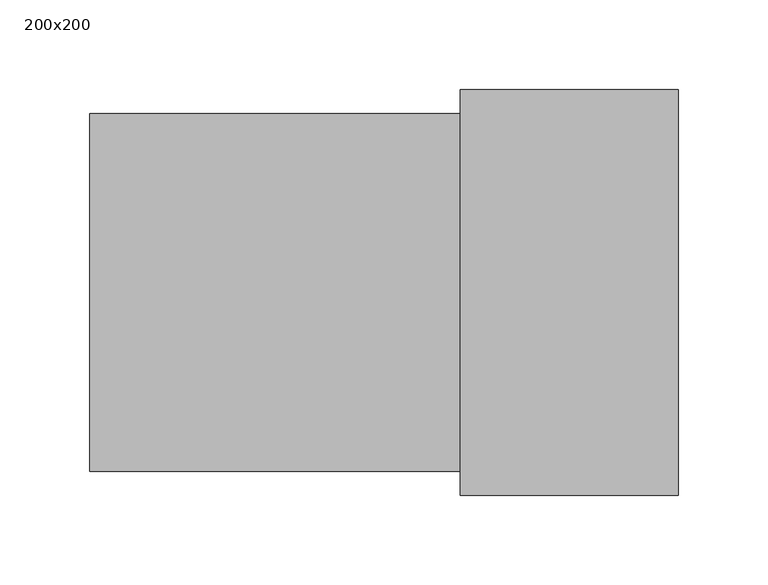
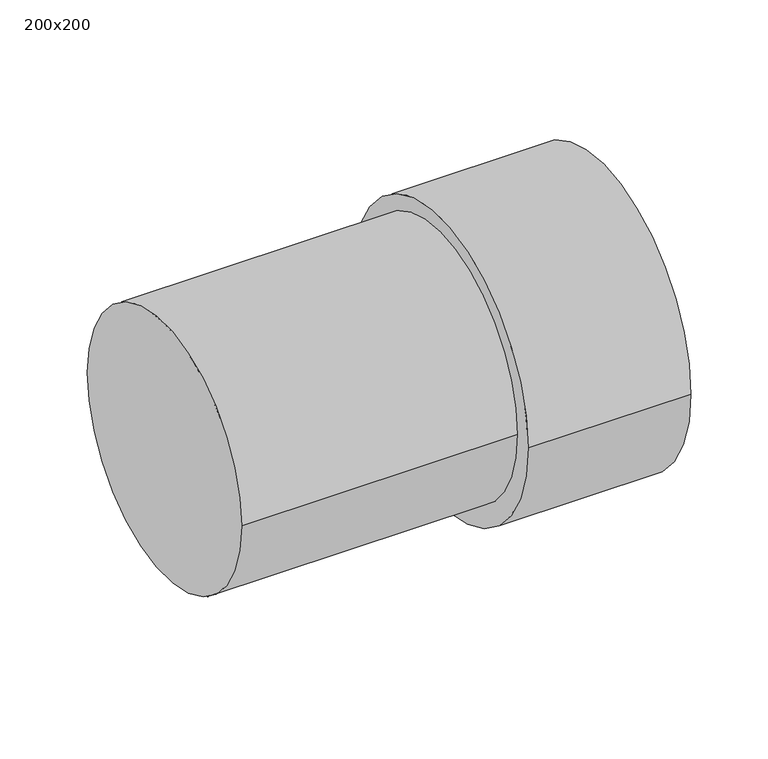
"""IFC4 building model written with IfcOpenShell, lengths in millimetres: pipe fitting geometry, Pipelife - Pragma OD - Adaptor kanalizacyjny : 200x200."""

from ifc_helpers import new_model, si_unit, point, frame, origin, origin_2d, place, context, project, spatial, polyline, circle_curve, trimmed, segment, composite_curve, outline, extrude, source, transform, mapped, element, save
from ifc_brep_helpers import plane_surface, cylinder_surface, revolved_surface, advanced_brep


def pipe_fitting_200x200_a64cda1f(model_context):
    return source(origin(), model_context, "Body", "SolidModel", [
        advanced_brep(
        [(2.0, -113.5, -2.5), (2.0, 113.5, -2.5), (124.0, -113.5, -2.5), (124.0, 113.5, -2.5), (124.0, -101.0, -2.5), (124.0, 101.0, -2.5), (3.0, -101.0, -2.5), (3.0, 101.0, -2.5)],
        [
            (0, 1, circle_curve(frame((2.0, 0.0, -2.5), z_axis=(-1.0, 0.0, 0.0), x_axis=(0.0, 1.0, 0.0)), 113.5)),
            (1, 0, circle_curve(frame((2.0, 0.0, -2.5), z_axis=(-1.0, 0.0, 0.0), x_axis=(0.0, 1.0, 0.0)), 113.5)),
            (2, 3, circle_curve(frame((124.0, 0.0, -2.5), z_axis=(1.0, 0.0, 0.0), x_axis=(0.0, 1.0, 0.0)), 113.5)),
            (3, 2, circle_curve(frame((124.0, 0.0, -2.5), z_axis=(1.0, 0.0, 0.0), x_axis=(0.0, 1.0, 0.0)), 113.5)),
            (4, 5, circle_curve(frame((124.0, 0.0, -2.5), z_axis=(-1.0, 0.0, 0.0), x_axis=(0.0, 1.0, 0.0)), 101.0)),
            (5, 4, circle_curve(frame((124.0, 0.0, -2.5), z_axis=(-1.0, 0.0, 0.0), x_axis=(0.0, 1.0, 0.0)), 101.0)),
            (0, 2),
            (3, 1),
            (6, 7, circle_curve(frame((3.0, 0.0, -2.5), z_axis=(1.0, 0.0, 0.0), x_axis=(0.0, 1.0, 0.0)), 101.0)),
            (7, 6, circle_curve(frame((3.0, 0.0, -2.5), z_axis=(1.0, 0.0, 0.0), x_axis=(0.0, 1.0, 0.0)), 101.0)),
            (7, 5),
            (4, 6),
        ],
        [
            plane_surface(frame((2.0, 0.0, -2.5), z_axis=(-1.0, 0.0, 0.0), x_axis=(0.0, 0.0, 1.0))),
            plane_surface(frame((124.0, 0.0, -2.5), z_axis=(1.0, 0.0, 0.0), x_axis=(0.0, 0.0, 1.0))),
            cylinder_surface(frame((2.0, 0.0, -2.5), z_axis=(-1.0, 0.0, 0.0), x_axis=(0.0, 1.0, 0.0)), 113.5),
            plane_surface(frame((3.0, 0.0, -2.5), z_axis=(1.0, 0.0, 0.0), x_axis=(0.0, 0.0, 1.0))),
            revolved_surface(polyline([(3.0, 101.0, -2.5), (124.0, 101.0, -2.5)]), (3.0, 0.0, -2.5), (-1.0, 0.0, 0.0)),
        ],
        [
            (0, [[1, 2]]),
            (1, [[3, 4], [5, 6]]),
            (2, [[-1, 7, -4, 8]]),
            (2, [[-2, -8, -3, -7]]),
            (3, [[9, 10]]),
            (4, [[-10, 11, -5, 12]]),
            (4, [[-9, -12, -6, -11]]),
        ],
    ),
        extrude(outline(composite_curve([segment(trimmed(circle_curve(origin_2d(), 100.0), [point((-100.0, 0.0))], [point((100.0, 0.0))], False, "CARTESIAN"), True, "CONTINUOUS"), segment(trimmed(circle_curve(origin_2d(), 100.0), [point((100.0, 0.0))], [point((-100.0, 0.0))], False, "CARTESIAN"), True, "CONTINUOUS")], self_intersect=False)), frame((-205.0, 0.0, 0.0), z_axis=(1.0, 0.0, 0.0), x_axis=(0.0, 1.0, 0.0)), (0.0, 0.0, 1.0), 207.0),
    ])


if __name__ == "__main__":
    model = new_model("IFC4")
    model_context = context("Model", 3, world=origin())
    ifc_project = project(units=[si_unit("LENGTHUNIT", "METRE", prefix="MILLI")], contexts=[model_context])
    site = spatial("IfcSite", under=ifc_project)
    building = spatial("IfcBuilding", under=site)
    placement = place(None, origin())
    pipe_fitting_200x200_shape = pipe_fitting_200x200_a64cda1f(model_context)
    element("IfcPipeFitting", 1, ObjectType="Pipelife - Pragma OD - Adaptor kanalizacyjny : 200x200", at=placement, inside=building, context=model_context, shape_type="MappedRepresentation", body=[
        mapped(pipe_fitting_200x200_shape, transform((0.0, 0.0, 0.0), x_axis=(1.0, 0.0, 0.0), y_axis=(0.0, 1.0, 0.0), z_axis=(0.0, 0.0, 1.0))),
    ])
    save(model, "model.ifc")
